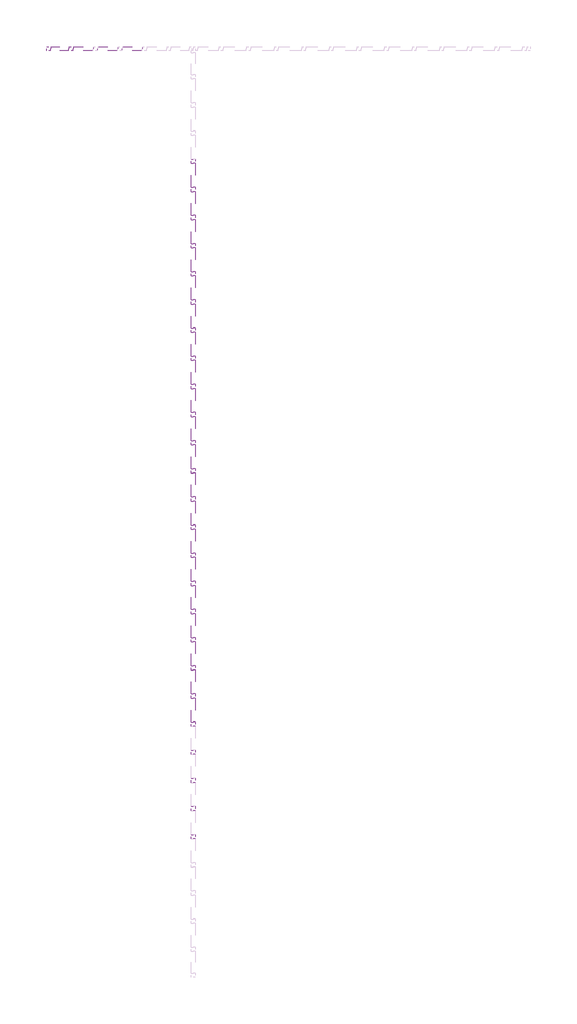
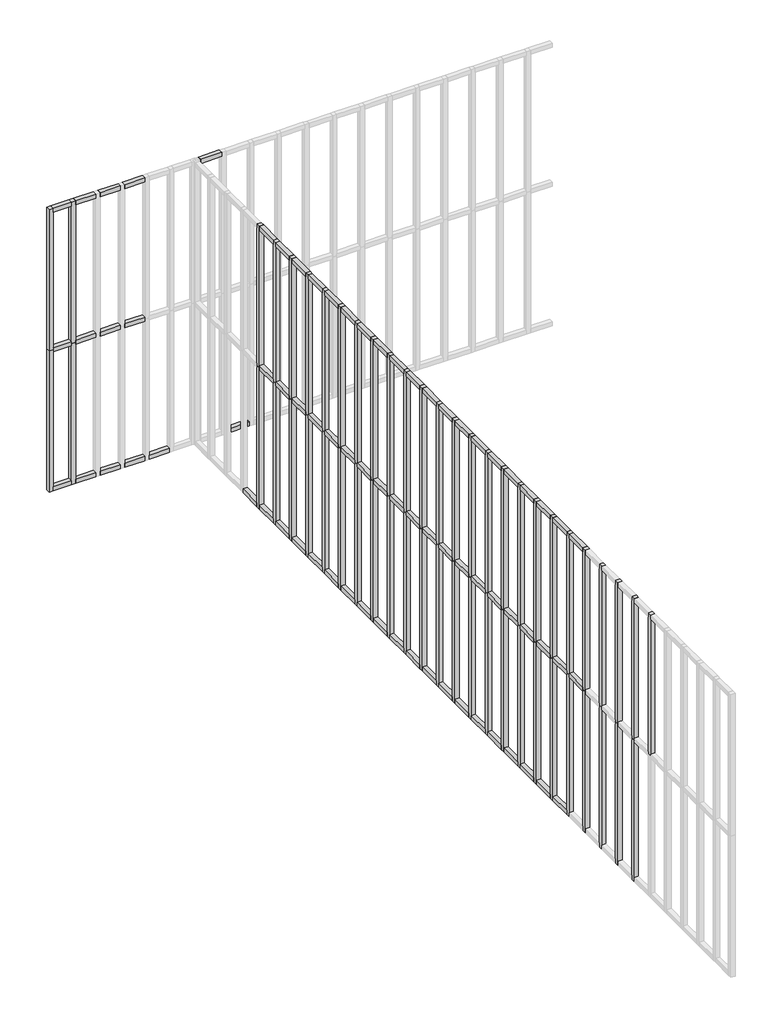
# One storey, part 7 of 9: 128 members.
"""IFC4 building model written with IfcOpenShell, lengths in millimetres."""

from ifc_helpers import new_model, si_unit, origin, place, context, project, spatial, transform, mapped, element, save
from components import montante_retangular_30mm_quadrado_ac79c377, montante_retangular_30mm_quadrado_16fee919, montante_retangular_30mm_quadrado_1e3c183d, montante_retangular_30mm_quadrado_ac46af65, montante_retangular_30mm_quadrado_54fe6a28, montante_retangular_30mm_quadrado_529ace61, montante_retangular_30mm_quadrado_ebddef8f, montante_retangular_30mm_quadrado_435085d7, montante_retangular_30mm_quadrado_4eb7c7a0, montante_retangular_30mm_quadrado_018b02ca

model = new_model("IFC4")

# Units and contexts
model_context = context("Model", 3, world=origin())
ifc_project = project(units=[si_unit("LENGTHUNIT", "METRE", prefix="MILLI")], contexts=[model_context])

# Site, building, storey
site = spatial("IfcSite", under=ifc_project)
building = spatial("IfcBuilding", under=site)
storey = spatial("IfcBuildingStorey", under=building, Name="Garagem 1", Elevation=47850.0)

# Members
placement = place(None, origin())
montante_retangular_30mm_quadrado_shape = montante_retangular_30mm_quadrado_ac79c377(model_context)
element("IfcMember", 1, ObjectType="Montante retangular : 30mm Quadrado", at=placement, inside=storey, context=model_context, shape_type="MappedRepresentation", body=[
    mapped(montante_retangular_30mm_quadrado_shape, transform((-7090.6441353, 10632.3610556, 52100.0), x_axis=(0.0, 0.0, 1.0), y_axis=(0.0, -1.0, 0.0), z_axis=(1.0, 0.0, 0.0))),
])
montante_retangular_30mm_quadrado_2_shape = montante_retangular_30mm_quadrado_16fee919(model_context)
element("IfcMember", 2, ObjectType="Montante retangular : 30mm Quadrado", at=placement, inside=storey, context=model_context, shape_type="MappedRepresentation", body=[
    mapped(montante_retangular_30mm_quadrado_2_shape, transform((-6918.2132212, 10632.3610556, 52100.0), x_axis=(0.0, 0.0, 1.0), y_axis=(0.0, -1.0, 0.0), z_axis=(1.0, 0.0, 0.0))),
])
element("IfcMember", 3, ObjectType="Montante retangular : 30mm Quadrado", at=placement, inside=storey, context=model_context, shape_type="MappedRepresentation", body=[
    mapped(montante_retangular_30mm_quadrado_2_shape, transform((-6745.7823071, 10632.3610556, 52100.0), x_axis=(0.0, 0.0, 1.0), y_axis=(0.0, -1.0, 0.0), z_axis=(1.0, 0.0, 0.0))),
])
element("IfcMember", 4, ObjectType="Montante retangular : 30mm Quadrado", at=placement, inside=storey, context=model_context, shape_type="MappedRepresentation", body=[
    mapped(montante_retangular_30mm_quadrado_2_shape, transform((-6573.351393, 10632.3610556, 52100.0), x_axis=(0.0, 0.0, 1.0), y_axis=(0.0, -1.0, 0.0), z_axis=(1.0, 0.0, 0.0))),
])
element("IfcMember", 5, ObjectType="Montante retangular : 30mm Quadrado", at=placement, inside=storey, context=model_context, shape_type="MappedRepresentation", body=[
    mapped(montante_retangular_30mm_quadrado_shape, transform((-7218.0750497, 10632.3610556, 50000.0), x_axis=(0.0, 0.0, -1.0), y_axis=(0.0, -1.0, 0.0), z_axis=(-1.0, 0.0, 0.0))),
])
element("IfcMember", 6, ObjectType="Montante retangular : 30mm Quadrado", at=placement, inside=storey, context=model_context, shape_type="MappedRepresentation", body=[
    mapped(montante_retangular_30mm_quadrado_2_shape, transform((-7060.6441353, 10632.3610556, 50000.0), x_axis=(0.0, 0.0, -1.0), y_axis=(0.0, -1.0, 0.0), z_axis=(-1.0, 0.0, 0.0))),
])
element("IfcMember", 7, ObjectType="Montante retangular : 30mm Quadrado", at=placement, inside=storey, context=model_context, shape_type="MappedRepresentation", body=[
    mapped(montante_retangular_30mm_quadrado_2_shape, transform((-6888.2132212, 10632.3610556, 50000.0), x_axis=(0.0, 0.0, -1.0), y_axis=(0.0, -1.0, 0.0), z_axis=(-1.0, 0.0, 0.0))),
])
element("IfcMember", 8, ObjectType="Montante retangular : 30mm Quadrado", at=placement, inside=storey, context=model_context, shape_type="MappedRepresentation", body=[
    mapped(montante_retangular_30mm_quadrado_2_shape, transform((-6715.7823071, 10632.3610556, 50000.0), x_axis=(0.0, 0.0, -1.0), y_axis=(0.0, -1.0, 0.0), z_axis=(-1.0, 0.0, 0.0))),
])
element("IfcMember", 9, ObjectType="Montante retangular : 30mm Quadrado", at=placement, inside=storey, context=model_context, shape_type="MappedRepresentation", body=[
    mapped(montante_retangular_30mm_quadrado_2_shape, transform((-6543.351393, 10632.3610556, 50000.0), x_axis=(0.0, 0.0, -1.0), y_axis=(0.0, -1.0, 0.0), z_axis=(-1.0, 0.0, 0.0))),
])
montante_retangular_30mm_quadrado_3_shape = montante_retangular_30mm_quadrado_1e3c183d(model_context)
element("IfcMember", 10, ObjectType="Montante retangular : 30mm Quadrado", at=placement, inside=storey, context=model_context, shape_type="MappedRepresentation", body=[
    mapped(montante_retangular_30mm_quadrado_3_shape, transform((-7090.6441353, 10632.3610556, 51050.0), x_axis=(0.0, 0.0, 1.0), y_axis=(0.0, -1.0, 0.0), z_axis=(1.0, 0.0, 0.0))),
])
montante_retangular_30mm_quadrado_4_shape = montante_retangular_30mm_quadrado_ac46af65(model_context)
element("IfcMember", 11, ObjectType="Montante retangular : 30mm Quadrado", at=placement, inside=storey, context=model_context, shape_type="MappedRepresentation", body=[
    mapped(montante_retangular_30mm_quadrado_4_shape, transform((-6918.2132212, 10632.3610556, 51050.0), x_axis=(0.0, 0.0, 1.0), y_axis=(0.0, -1.0, 0.0), z_axis=(1.0, 0.0, 0.0))),
])
element("IfcMember", 12, ObjectType="Montante retangular : 30mm Quadrado", at=placement, inside=storey, context=model_context, shape_type="MappedRepresentation", body=[
    mapped(montante_retangular_30mm_quadrado_4_shape, transform((-6745.7823071, 10632.3610556, 51050.0), x_axis=(0.0, 0.0, 1.0), y_axis=(0.0, -1.0, 0.0), z_axis=(1.0, 0.0, 0.0))),
])
element("IfcMember", 13, ObjectType="Montante retangular : 30mm Quadrado", at=placement, inside=storey, context=model_context, shape_type="MappedRepresentation", body=[
    mapped(montante_retangular_30mm_quadrado_4_shape, transform((-6573.351393, 10632.3610556, 51050.0), x_axis=(0.0, 0.0, 1.0), y_axis=(0.0, -1.0, 0.0), z_axis=(1.0, 0.0, 0.0))),
])
montante_retangular_30mm_quadrado_5_shape = montante_retangular_30mm_quadrado_54fe6a28(model_context)
element("IfcMember", 14, ObjectType="Montante retangular : 30mm Quadrado", at=placement, inside=storey, context=model_context, shape_type="MappedRepresentation", body=[
    mapped(montante_retangular_30mm_quadrado_5_shape, transform((-7075.6441353, 10632.3610556, 50000.0), x_axis=(1.0, 0.0, 0.0), y_axis=(0.0, -1.0, 0.0), z_axis=(0.0, 0.0, -1.0))),
])
element("IfcMember", 15, ObjectType="Montante retangular : 30mm Quadrado", at=placement, inside=storey, context=model_context, shape_type="MappedRepresentation", body=[
    mapped(montante_retangular_30mm_quadrado_5_shape, transform((-6213.4895645, 5275.8155354, 50000.0), x_axis=(0.0, 1.0, 0.0), y_axis=(1.0, 0.0, 0.0), z_axis=(0.0, 0.0, -1.0))),
])
element("IfcMember", 16, ObjectType="Montante retangular : 30mm Quadrado", at=placement, inside=storey, context=model_context, shape_type="MappedRepresentation", body=[
    mapped(montante_retangular_30mm_quadrado_5_shape, transform((-6213.4895645, 5474.2061102, 50000.0), x_axis=(0.0, 1.0, 0.0), y_axis=(1.0, 0.0, 0.0), z_axis=(0.0, 0.0, -1.0))),
])
element("IfcMember", 17, ObjectType="Montante retangular : 30mm Quadrado", at=placement, inside=storey, context=model_context, shape_type="MappedRepresentation", body=[
    mapped(montante_retangular_30mm_quadrado_5_shape, transform((-6213.4895645, 5672.596685, 50000.0), x_axis=(0.0, 1.0, 0.0), y_axis=(1.0, 0.0, 0.0), z_axis=(0.0, 0.0, -1.0))),
])
element("IfcMember", 18, ObjectType="Montante retangular : 30mm Quadrado", at=placement, inside=storey, context=model_context, shape_type="MappedRepresentation", body=[
    mapped(montante_retangular_30mm_quadrado_5_shape, transform((-6213.4895645, 5870.9872598, 50000.0), x_axis=(0.0, 1.0, 0.0), y_axis=(1.0, 0.0, 0.0), z_axis=(0.0, 0.0, -1.0))),
])
element("IfcMember", 19, ObjectType="Montante retangular : 30mm Quadrado", at=placement, inside=storey, context=model_context, shape_type="MappedRepresentation", body=[
    mapped(montante_retangular_30mm_quadrado_5_shape, transform((-6213.4895645, 6069.3778347, 50000.0), x_axis=(0.0, 1.0, 0.0), y_axis=(1.0, 0.0, 0.0), z_axis=(0.0, 0.0, -1.0))),
])
element("IfcMember", 20, ObjectType="Montante retangular : 30mm Quadrado", at=placement, inside=storey, context=model_context, shape_type="MappedRepresentation", body=[
    mapped(montante_retangular_30mm_quadrado_5_shape, transform((-6213.4895645, 6267.7684095, 50000.0), x_axis=(0.0, 1.0, 0.0), y_axis=(1.0, 0.0, 0.0), z_axis=(0.0, 0.0, -1.0))),
])
element("IfcMember", 21, ObjectType="Montante retangular : 30mm Quadrado", at=placement, inside=storey, context=model_context, shape_type="MappedRepresentation", body=[
    mapped(montante_retangular_30mm_quadrado_5_shape, transform((-6213.4895645, 6466.1589843, 50000.0), x_axis=(0.0, 1.0, 0.0), y_axis=(1.0, 0.0, 0.0), z_axis=(0.0, 0.0, -1.0))),
])
element("IfcMember", 22, ObjectType="Montante retangular : 30mm Quadrado", at=placement, inside=storey, context=model_context, shape_type="MappedRepresentation", body=[
    mapped(montante_retangular_30mm_quadrado_5_shape, transform((-6213.4895645, 6664.5495591, 50000.0), x_axis=(0.0, 1.0, 0.0), y_axis=(1.0, 0.0, 0.0), z_axis=(0.0, 0.0, -1.0))),
])
element("IfcMember", 23, ObjectType="Montante retangular : 30mm Quadrado", at=placement, inside=storey, context=model_context, shape_type="MappedRepresentation", body=[
    mapped(montante_retangular_30mm_quadrado_5_shape, transform((-6213.4895645, 6862.9401339, 50000.0), x_axis=(0.0, 1.0, 0.0), y_axis=(1.0, 0.0, 0.0), z_axis=(0.0, 0.0, -1.0))),
])
element("IfcMember", 24, ObjectType="Montante retangular : 30mm Quadrado", at=placement, inside=storey, context=model_context, shape_type="MappedRepresentation", body=[
    mapped(montante_retangular_30mm_quadrado_5_shape, transform((-6213.4895645, 7061.3307087, 50000.0), x_axis=(0.0, 1.0, 0.0), y_axis=(1.0, 0.0, 0.0), z_axis=(0.0, 0.0, -1.0))),
])
element("IfcMember", 25, ObjectType="Montante retangular : 30mm Quadrado", at=placement, inside=storey, context=model_context, shape_type="MappedRepresentation", body=[
    mapped(montante_retangular_30mm_quadrado_5_shape, transform((-6213.4895645, 7259.7212835, 50000.0), x_axis=(0.0, 1.0, 0.0), y_axis=(1.0, 0.0, 0.0), z_axis=(0.0, 0.0, -1.0))),
])
element("IfcMember", 26, ObjectType="Montante retangular : 30mm Quadrado", at=placement, inside=storey, context=model_context, shape_type="MappedRepresentation", body=[
    mapped(montante_retangular_30mm_quadrado_5_shape, transform((-6213.4895645, 7458.1118583, 50000.0), x_axis=(0.0, 1.0, 0.0), y_axis=(1.0, 0.0, 0.0), z_axis=(0.0, 0.0, -1.0))),
])
element("IfcMember", 27, ObjectType="Montante retangular : 30mm Quadrado", at=placement, inside=storey, context=model_context, shape_type="MappedRepresentation", body=[
    mapped(montante_retangular_30mm_quadrado_5_shape, transform((-6213.4895645, 7656.5024331, 50000.0), x_axis=(0.0, 1.0, 0.0), y_axis=(1.0, 0.0, 0.0), z_axis=(0.0, 0.0, -1.0))),
])
element("IfcMember", 28, ObjectType="Montante retangular : 30mm Quadrado", at=placement, inside=storey, context=model_context, shape_type="MappedRepresentation", body=[
    mapped(montante_retangular_30mm_quadrado_5_shape, transform((-6213.4895645, 7854.893008, 50000.0), x_axis=(0.0, 1.0, 0.0), y_axis=(1.0, 0.0, 0.0), z_axis=(0.0, 0.0, -1.0))),
])
element("IfcMember", 29, ObjectType="Montante retangular : 30mm Quadrado", at=placement, inside=storey, context=model_context, shape_type="MappedRepresentation", body=[
    mapped(montante_retangular_30mm_quadrado_5_shape, transform((-6213.4895645, 8053.2835828, 50000.0), x_axis=(0.0, 1.0, 0.0), y_axis=(1.0, 0.0, 0.0), z_axis=(0.0, 0.0, -1.0))),
])
element("IfcMember", 30, ObjectType="Montante retangular : 30mm Quadrado", at=placement, inside=storey, context=model_context, shape_type="MappedRepresentation", body=[
    mapped(montante_retangular_30mm_quadrado_5_shape, transform((-6213.4895645, 8251.6741576, 50000.0), x_axis=(0.0, 1.0, 0.0), y_axis=(1.0, 0.0, 0.0), z_axis=(0.0, 0.0, -1.0))),
])
element("IfcMember", 31, ObjectType="Montante retangular : 30mm Quadrado", at=placement, inside=storey, context=model_context, shape_type="MappedRepresentation", body=[
    mapped(montante_retangular_30mm_quadrado_5_shape, transform((-6213.4895645, 8450.0647324, 50000.0), x_axis=(0.0, 1.0, 0.0), y_axis=(1.0, 0.0, 0.0), z_axis=(0.0, 0.0, -1.0))),
])
element("IfcMember", 32, ObjectType="Montante retangular : 30mm Quadrado", at=placement, inside=storey, context=model_context, shape_type="MappedRepresentation", body=[
    mapped(montante_retangular_30mm_quadrado_5_shape, transform((-6213.4895645, 8648.4553072, 50000.0), x_axis=(0.0, 1.0, 0.0), y_axis=(1.0, 0.0, 0.0), z_axis=(0.0, 0.0, -1.0))),
])
element("IfcMember", 33, ObjectType="Montante retangular : 30mm Quadrado", at=placement, inside=storey, context=model_context, shape_type="MappedRepresentation", body=[
    mapped(montante_retangular_30mm_quadrado_5_shape, transform((-6213.4895645, 8846.845882, 50000.0), x_axis=(0.0, 1.0, 0.0), y_axis=(1.0, 0.0, 0.0), z_axis=(0.0, 0.0, -1.0))),
])
element("IfcMember", 34, ObjectType="Montante retangular : 30mm Quadrado", at=placement, inside=storey, context=model_context, shape_type="MappedRepresentation", body=[
    mapped(montante_retangular_30mm_quadrado_5_shape, transform((-6213.4895645, 9045.2364568, 50000.0), x_axis=(0.0, 1.0, 0.0), y_axis=(1.0, 0.0, 0.0), z_axis=(0.0, 0.0, -1.0))),
])
element("IfcMember", 35, ObjectType="Montante retangular : 30mm Quadrado", at=placement, inside=storey, context=model_context, shape_type="MappedRepresentation", body=[
    mapped(montante_retangular_30mm_quadrado_5_shape, transform((-6213.4895645, 9243.6270316, 50000.0), x_axis=(0.0, 1.0, 0.0), y_axis=(1.0, 0.0, 0.0), z_axis=(0.0, 0.0, -1.0))),
])
element("IfcMember", 36, ObjectType="Montante retangular : 30mm Quadrado", at=placement, inside=storey, context=model_context, shape_type="MappedRepresentation", body=[
    mapped(montante_retangular_30mm_quadrado_5_shape, transform((-6213.4895645, 9442.0176064, 50000.0), x_axis=(0.0, 1.0, 0.0), y_axis=(1.0, 0.0, 0.0), z_axis=(0.0, 0.0, -1.0))),
])
element("IfcMember", 37, ObjectType="Montante retangular : 30mm Quadrado", at=placement, inside=storey, context=model_context, shape_type="MappedRepresentation", body=[
    mapped(montante_retangular_30mm_quadrado_5_shape, transform((-6213.4895645, 9640.4081813, 50000.0), x_axis=(0.0, 1.0, 0.0), y_axis=(1.0, 0.0, 0.0), z_axis=(0.0, 0.0, -1.0))),
])
element("IfcMember", 38, ObjectType="Montante retangular : 30mm Quadrado", at=placement, inside=storey, context=model_context, shape_type="MappedRepresentation", body=[
    mapped(montante_retangular_30mm_quadrado_5_shape, transform((-6213.4895645, 9838.7987561, 50000.0), x_axis=(0.0, 1.0, 0.0), y_axis=(1.0, 0.0, 0.0), z_axis=(0.0, 0.0, -1.0))),
])
element("IfcMember", 39, ObjectType="Montante retangular : 30mm Quadrado", at=placement, inside=storey, context=model_context, shape_type="MappedRepresentation", body=[
    mapped(montante_retangular_30mm_quadrado_5_shape, transform((-7075.6441353, 10632.3610556, 51050.0), x_axis=(1.0, 0.0, 0.0), y_axis=(0.0, -1.0, 0.0), z_axis=(0.0, 0.0, -1.0))),
])
element("IfcMember", 40, ObjectType="Montante retangular : 30mm Quadrado", at=placement, inside=storey, context=model_context, shape_type="MappedRepresentation", body=[
    mapped(montante_retangular_30mm_quadrado_5_shape, transform((-6213.4895645, 5077.4249606, 51050.0), x_axis=(0.0, 1.0, 0.0), y_axis=(1.0, 0.0, 0.0), z_axis=(0.0, 0.0, -1.0))),
])
element("IfcMember", 41, ObjectType="Montante retangular : 30mm Quadrado", at=placement, inside=storey, context=model_context, shape_type="MappedRepresentation", body=[
    mapped(montante_retangular_30mm_quadrado_5_shape, transform((-6213.4895645, 5275.8155354, 51050.0), x_axis=(0.0, 1.0, 0.0), y_axis=(1.0, 0.0, 0.0), z_axis=(0.0, 0.0, -1.0))),
])
element("IfcMember", 42, ObjectType="Montante retangular : 30mm Quadrado", at=placement, inside=storey, context=model_context, shape_type="MappedRepresentation", body=[
    mapped(montante_retangular_30mm_quadrado_5_shape, transform((-6213.4895645, 5474.2061102, 51050.0), x_axis=(0.0, 1.0, 0.0), y_axis=(1.0, 0.0, 0.0), z_axis=(0.0, 0.0, -1.0))),
])
element("IfcMember", 43, ObjectType="Montante retangular : 30mm Quadrado", at=placement, inside=storey, context=model_context, shape_type="MappedRepresentation", body=[
    mapped(montante_retangular_30mm_quadrado_5_shape, transform((-6213.4895645, 5672.596685, 51050.0), x_axis=(0.0, 1.0, 0.0), y_axis=(1.0, 0.0, 0.0), z_axis=(0.0, 0.0, -1.0))),
])
element("IfcMember", 44, ObjectType="Montante retangular : 30mm Quadrado", at=placement, inside=storey, context=model_context, shape_type="MappedRepresentation", body=[
    mapped(montante_retangular_30mm_quadrado_5_shape, transform((-6213.4895645, 5870.9872598, 51050.0), x_axis=(0.0, 1.0, 0.0), y_axis=(1.0, 0.0, 0.0), z_axis=(0.0, 0.0, -1.0))),
])
element("IfcMember", 45, ObjectType="Montante retangular : 30mm Quadrado", at=placement, inside=storey, context=model_context, shape_type="MappedRepresentation", body=[
    mapped(montante_retangular_30mm_quadrado_5_shape, transform((-6213.4895645, 6069.3778347, 51050.0), x_axis=(0.0, 1.0, 0.0), y_axis=(1.0, 0.0, 0.0), z_axis=(0.0, 0.0, -1.0))),
])
element("IfcMember", 46, ObjectType="Montante retangular : 30mm Quadrado", at=placement, inside=storey, context=model_context, shape_type="MappedRepresentation", body=[
    mapped(montante_retangular_30mm_quadrado_5_shape, transform((-6213.4895645, 6267.7684095, 51050.0), x_axis=(0.0, 1.0, 0.0), y_axis=(1.0, 0.0, 0.0), z_axis=(0.0, 0.0, -1.0))),
])
element("IfcMember", 47, ObjectType="Montante retangular : 30mm Quadrado", at=placement, inside=storey, context=model_context, shape_type="MappedRepresentation", body=[
    mapped(montante_retangular_30mm_quadrado_5_shape, transform((-6213.4895645, 6466.1589843, 51050.0), x_axis=(0.0, 1.0, 0.0), y_axis=(1.0, 0.0, 0.0), z_axis=(0.0, 0.0, -1.0))),
])
element("IfcMember", 48, ObjectType="Montante retangular : 30mm Quadrado", at=placement, inside=storey, context=model_context, shape_type="MappedRepresentation", body=[
    mapped(montante_retangular_30mm_quadrado_5_shape, transform((-6213.4895645, 6664.5495591, 51050.0), x_axis=(0.0, 1.0, 0.0), y_axis=(1.0, 0.0, 0.0), z_axis=(0.0, 0.0, -1.0))),
])
element("IfcMember", 49, ObjectType="Montante retangular : 30mm Quadrado", at=placement, inside=storey, context=model_context, shape_type="MappedRepresentation", body=[
    mapped(montante_retangular_30mm_quadrado_5_shape, transform((-6213.4895645, 6862.9401339, 51050.0), x_axis=(0.0, 1.0, 0.0), y_axis=(1.0, 0.0, 0.0), z_axis=(0.0, 0.0, -1.0))),
])
element("IfcMember", 50, ObjectType="Montante retangular : 30mm Quadrado", at=placement, inside=storey, context=model_context, shape_type="MappedRepresentation", body=[
    mapped(montante_retangular_30mm_quadrado_5_shape, transform((-6213.4895645, 7061.3307087, 51050.0), x_axis=(0.0, 1.0, 0.0), y_axis=(1.0, 0.0, 0.0), z_axis=(0.0, 0.0, -1.0))),
])
element("IfcMember", 51, ObjectType="Montante retangular : 30mm Quadrado", at=placement, inside=storey, context=model_context, shape_type="MappedRepresentation", body=[
    mapped(montante_retangular_30mm_quadrado_5_shape, transform((-6213.4895645, 7259.7212835, 51050.0), x_axis=(0.0, 1.0, 0.0), y_axis=(1.0, 0.0, 0.0), z_axis=(0.0, 0.0, -1.0))),
])
element("IfcMember", 52, ObjectType="Montante retangular : 30mm Quadrado", at=placement, inside=storey, context=model_context, shape_type="MappedRepresentation", body=[
    mapped(montante_retangular_30mm_quadrado_5_shape, transform((-6213.4895645, 7458.1118583, 51050.0), x_axis=(0.0, 1.0, 0.0), y_axis=(1.0, 0.0, 0.0), z_axis=(0.0, 0.0, -1.0))),
])
element("IfcMember", 53, ObjectType="Montante retangular : 30mm Quadrado", at=placement, inside=storey, context=model_context, shape_type="MappedRepresentation", body=[
    mapped(montante_retangular_30mm_quadrado_5_shape, transform((-6213.4895645, 7656.5024331, 51050.0), x_axis=(0.0, 1.0, 0.0), y_axis=(1.0, 0.0, 0.0), z_axis=(0.0, 0.0, -1.0))),
])
element("IfcMember", 54, ObjectType="Montante retangular : 30mm Quadrado", at=placement, inside=storey, context=model_context, shape_type="MappedRepresentation", body=[
    mapped(montante_retangular_30mm_quadrado_5_shape, transform((-6213.4895645, 7854.893008, 51050.0), x_axis=(0.0, 1.0, 0.0), y_axis=(1.0, 0.0, 0.0), z_axis=(0.0, 0.0, -1.0))),
])
element("IfcMember", 55, ObjectType="Montante retangular : 30mm Quadrado", at=placement, inside=storey, context=model_context, shape_type="MappedRepresentation", body=[
    mapped(montante_retangular_30mm_quadrado_5_shape, transform((-6213.4895645, 8053.2835828, 51050.0), x_axis=(0.0, 1.0, 0.0), y_axis=(1.0, 0.0, 0.0), z_axis=(0.0, 0.0, -1.0))),
])
element("IfcMember", 56, ObjectType="Montante retangular : 30mm Quadrado", at=placement, inside=storey, context=model_context, shape_type="MappedRepresentation", body=[
    mapped(montante_retangular_30mm_quadrado_5_shape, transform((-6213.4895645, 8251.6741576, 51050.0), x_axis=(0.0, 1.0, 0.0), y_axis=(1.0, 0.0, 0.0), z_axis=(0.0, 0.0, -1.0))),
])
element("IfcMember", 57, ObjectType="Montante retangular : 30mm Quadrado", at=placement, inside=storey, context=model_context, shape_type="MappedRepresentation", body=[
    mapped(montante_retangular_30mm_quadrado_5_shape, transform((-6213.4895645, 8450.0647324, 51050.0), x_axis=(0.0, 1.0, 0.0), y_axis=(1.0, 0.0, 0.0), z_axis=(0.0, 0.0, -1.0))),
])
element("IfcMember", 58, ObjectType="Montante retangular : 30mm Quadrado", at=placement, inside=storey, context=model_context, shape_type="MappedRepresentation", body=[
    mapped(montante_retangular_30mm_quadrado_5_shape, transform((-6213.4895645, 8648.4553072, 51050.0), x_axis=(0.0, 1.0, 0.0), y_axis=(1.0, 0.0, 0.0), z_axis=(0.0, 0.0, -1.0))),
])
element("IfcMember", 59, ObjectType="Montante retangular : 30mm Quadrado", at=placement, inside=storey, context=model_context, shape_type="MappedRepresentation", body=[
    mapped(montante_retangular_30mm_quadrado_5_shape, transform((-6213.4895645, 8846.845882, 51050.0), x_axis=(0.0, 1.0, 0.0), y_axis=(1.0, 0.0, 0.0), z_axis=(0.0, 0.0, -1.0))),
])
element("IfcMember", 60, ObjectType="Montante retangular : 30mm Quadrado", at=placement, inside=storey, context=model_context, shape_type="MappedRepresentation", body=[
    mapped(montante_retangular_30mm_quadrado_5_shape, transform((-6213.4895645, 9045.2364568, 51050.0), x_axis=(0.0, 1.0, 0.0), y_axis=(1.0, 0.0, 0.0), z_axis=(0.0, 0.0, -1.0))),
])
element("IfcMember", 61, ObjectType="Montante retangular : 30mm Quadrado", at=placement, inside=storey, context=model_context, shape_type="MappedRepresentation", body=[
    mapped(montante_retangular_30mm_quadrado_5_shape, transform((-6213.4895645, 9243.6270316, 51050.0), x_axis=(0.0, 1.0, 0.0), y_axis=(1.0, 0.0, 0.0), z_axis=(0.0, 0.0, -1.0))),
])
element("IfcMember", 62, ObjectType="Montante retangular : 30mm Quadrado", at=placement, inside=storey, context=model_context, shape_type="MappedRepresentation", body=[
    mapped(montante_retangular_30mm_quadrado_5_shape, transform((-6213.4895645, 9442.0176064, 51050.0), x_axis=(0.0, 1.0, 0.0), y_axis=(1.0, 0.0, 0.0), z_axis=(0.0, 0.0, -1.0))),
])
element("IfcMember", 63, ObjectType="Montante retangular : 30mm Quadrado", at=placement, inside=storey, context=model_context, shape_type="MappedRepresentation", body=[
    mapped(montante_retangular_30mm_quadrado_5_shape, transform((-6213.4895645, 9640.4081813, 51050.0), x_axis=(0.0, 1.0, 0.0), y_axis=(1.0, 0.0, 0.0), z_axis=(0.0, 0.0, -1.0))),
])
element("IfcMember", 64, ObjectType="Montante retangular : 30mm Quadrado", at=placement, inside=storey, context=model_context, shape_type="MappedRepresentation", body=[
    mapped(montante_retangular_30mm_quadrado_5_shape, transform((-6213.4895645, 9838.7987561, 51050.0), x_axis=(0.0, 1.0, 0.0), y_axis=(1.0, 0.0, 0.0), z_axis=(0.0, 0.0, -1.0))),
])
montante_retangular_30mm_quadrado_6_shape = montante_retangular_30mm_quadrado_529ace61(model_context)
element("IfcMember", 65, ObjectType="Montante retangular : 30mm Quadrado", at=placement, inside=storey, context=model_context, shape_type="MappedRepresentation", body=[
    mapped(montante_retangular_30mm_quadrado_6_shape, transform((-6213.4895645, 6054.3778347, 52100.0), x_axis=(0.0, 0.0, 1.0), y_axis=(1.0, 0.0, 0.0), z_axis=(0.0, 1.0, 0.0))),
])
element("IfcMember", 66, ObjectType="Montante retangular : 30mm Quadrado", at=placement, inside=storey, context=model_context, shape_type="MappedRepresentation", body=[
    mapped(montante_retangular_30mm_quadrado_6_shape, transform((-6213.4895645, 6252.7684095, 52100.0), x_axis=(0.0, 0.0, 1.0), y_axis=(1.0, 0.0, 0.0), z_axis=(0.0, 1.0, 0.0))),
])
element("IfcMember", 67, ObjectType="Montante retangular : 30mm Quadrado", at=placement, inside=storey, context=model_context, shape_type="MappedRepresentation", body=[
    mapped(montante_retangular_30mm_quadrado_6_shape, transform((-6213.4895645, 6451.1589843, 52100.0), x_axis=(0.0, 0.0, 1.0), y_axis=(1.0, 0.0, 0.0), z_axis=(0.0, 1.0, 0.0))),
])
element("IfcMember", 68, ObjectType="Montante retangular : 30mm Quadrado", at=placement, inside=storey, context=model_context, shape_type="MappedRepresentation", body=[
    mapped(montante_retangular_30mm_quadrado_6_shape, transform((-6213.4895645, 6649.5495591, 52100.0), x_axis=(0.0, 0.0, 1.0), y_axis=(1.0, 0.0, 0.0), z_axis=(0.0, 1.0, 0.0))),
])
element("IfcMember", 69, ObjectType="Montante retangular : 30mm Quadrado", at=placement, inside=storey, context=model_context, shape_type="MappedRepresentation", body=[
    mapped(montante_retangular_30mm_quadrado_6_shape, transform((-6213.4895645, 6847.9401339, 52100.0), x_axis=(0.0, 0.0, 1.0), y_axis=(1.0, 0.0, 0.0), z_axis=(0.0, 1.0, 0.0))),
])
element("IfcMember", 70, ObjectType="Montante retangular : 30mm Quadrado", at=placement, inside=storey, context=model_context, shape_type="MappedRepresentation", body=[
    mapped(montante_retangular_30mm_quadrado_6_shape, transform((-6213.4895645, 7046.3307087, 52100.0), x_axis=(0.0, 0.0, 1.0), y_axis=(1.0, 0.0, 0.0), z_axis=(0.0, 1.0, 0.0))),
])
element("IfcMember", 71, ObjectType="Montante retangular : 30mm Quadrado", at=placement, inside=storey, context=model_context, shape_type="MappedRepresentation", body=[
    mapped(montante_retangular_30mm_quadrado_6_shape, transform((-6213.4895645, 7244.7212835, 52100.0), x_axis=(0.0, 0.0, 1.0), y_axis=(1.0, 0.0, 0.0), z_axis=(0.0, 1.0, 0.0))),
])
element("IfcMember", 72, ObjectType="Montante retangular : 30mm Quadrado", at=placement, inside=storey, context=model_context, shape_type="MappedRepresentation", body=[
    mapped(montante_retangular_30mm_quadrado_6_shape, transform((-6213.4895645, 7443.1118583, 52100.0), x_axis=(0.0, 0.0, 1.0), y_axis=(1.0, 0.0, 0.0), z_axis=(0.0, 1.0, 0.0))),
])
element("IfcMember", 73, ObjectType="Montante retangular : 30mm Quadrado", at=placement, inside=storey, context=model_context, shape_type="MappedRepresentation", body=[
    mapped(montante_retangular_30mm_quadrado_6_shape, transform((-6213.4895645, 7641.5024331, 52100.0), x_axis=(0.0, 0.0, 1.0), y_axis=(1.0, 0.0, 0.0), z_axis=(0.0, 1.0, 0.0))),
])
element("IfcMember", 74, ObjectType="Montante retangular : 30mm Quadrado", at=placement, inside=storey, context=model_context, shape_type="MappedRepresentation", body=[
    mapped(montante_retangular_30mm_quadrado_6_shape, transform((-6213.4895645, 7839.893008, 52100.0), x_axis=(0.0, 0.0, 1.0), y_axis=(1.0, 0.0, 0.0), z_axis=(0.0, 1.0, 0.0))),
])
element("IfcMember", 75, ObjectType="Montante retangular : 30mm Quadrado", at=placement, inside=storey, context=model_context, shape_type="MappedRepresentation", body=[
    mapped(montante_retangular_30mm_quadrado_6_shape, transform((-6213.4895645, 8038.2835828, 52100.0), x_axis=(0.0, 0.0, 1.0), y_axis=(1.0, 0.0, 0.0), z_axis=(0.0, 1.0, 0.0))),
])
element("IfcMember", 76, ObjectType="Montante retangular : 30mm Quadrado", at=placement, inside=storey, context=model_context, shape_type="MappedRepresentation", body=[
    mapped(montante_retangular_30mm_quadrado_6_shape, transform((-6213.4895645, 8236.6741576, 52100.0), x_axis=(0.0, 0.0, 1.0), y_axis=(1.0, 0.0, 0.0), z_axis=(0.0, 1.0, 0.0))),
])
element("IfcMember", 77, ObjectType="Montante retangular : 30mm Quadrado", at=placement, inside=storey, context=model_context, shape_type="MappedRepresentation", body=[
    mapped(montante_retangular_30mm_quadrado_6_shape, transform((-6213.4895645, 8435.0647324, 52100.0), x_axis=(0.0, 0.0, 1.0), y_axis=(1.0, 0.0, 0.0), z_axis=(0.0, 1.0, 0.0))),
])
element("IfcMember", 78, ObjectType="Montante retangular : 30mm Quadrado", at=placement, inside=storey, context=model_context, shape_type="MappedRepresentation", body=[
    mapped(montante_retangular_30mm_quadrado_6_shape, transform((-6213.4895645, 8633.4553072, 52100.0), x_axis=(0.0, 0.0, 1.0), y_axis=(1.0, 0.0, 0.0), z_axis=(0.0, 1.0, 0.0))),
])
element("IfcMember", 79, ObjectType="Montante retangular : 30mm Quadrado", at=placement, inside=storey, context=model_context, shape_type="MappedRepresentation", body=[
    mapped(montante_retangular_30mm_quadrado_6_shape, transform((-6213.4895645, 8831.845882, 52100.0), x_axis=(0.0, 0.0, 1.0), y_axis=(1.0, 0.0, 0.0), z_axis=(0.0, 1.0, 0.0))),
])
element("IfcMember", 80, ObjectType="Montante retangular : 30mm Quadrado", at=placement, inside=storey, context=model_context, shape_type="MappedRepresentation", body=[
    mapped(montante_retangular_30mm_quadrado_6_shape, transform((-6213.4895645, 9030.2364568, 52100.0), x_axis=(0.0, 0.0, 1.0), y_axis=(1.0, 0.0, 0.0), z_axis=(0.0, 1.0, 0.0))),
])
element("IfcMember", 81, ObjectType="Montante retangular : 30mm Quadrado", at=placement, inside=storey, context=model_context, shape_type="MappedRepresentation", body=[
    mapped(montante_retangular_30mm_quadrado_6_shape, transform((-6213.4895645, 9228.6270316, 52100.0), x_axis=(0.0, 0.0, 1.0), y_axis=(1.0, 0.0, 0.0), z_axis=(0.0, 1.0, 0.0))),
])
element("IfcMember", 82, ObjectType="Montante retangular : 30mm Quadrado", at=placement, inside=storey, context=model_context, shape_type="MappedRepresentation", body=[
    mapped(montante_retangular_30mm_quadrado_6_shape, transform((-6213.4895645, 9427.0176064, 52100.0), x_axis=(0.0, 0.0, 1.0), y_axis=(1.0, 0.0, 0.0), z_axis=(0.0, 1.0, 0.0))),
])
element("IfcMember", 83, ObjectType="Montante retangular : 30mm Quadrado", at=placement, inside=storey, context=model_context, shape_type="MappedRepresentation", body=[
    mapped(montante_retangular_30mm_quadrado_6_shape, transform((-6213.4895645, 9625.4081813, 52100.0), x_axis=(0.0, 0.0, 1.0), y_axis=(1.0, 0.0, 0.0), z_axis=(0.0, 1.0, 0.0))),
])
element("IfcMember", 84, ObjectType="Montante retangular : 30mm Quadrado", at=placement, inside=storey, context=model_context, shape_type="MappedRepresentation", body=[
    mapped(montante_retangular_30mm_quadrado_6_shape, transform((-6213.4895645, 9823.7987561, 52100.0), x_axis=(0.0, 0.0, 1.0), y_axis=(1.0, 0.0, 0.0), z_axis=(0.0, 1.0, 0.0))),
])
element("IfcMember", 85, ObjectType="Montante retangular : 30mm Quadrado", at=placement, inside=storey, context=model_context, shape_type="MappedRepresentation", body=[
    mapped(montante_retangular_30mm_quadrado_6_shape, transform((-6213.4895645, 6084.3778347, 50000.0), x_axis=(0.0, 0.0, -1.0), y_axis=(1.0, 0.0, 0.0), z_axis=(0.0, -1.0, 0.0))),
])
element("IfcMember", 86, ObjectType="Montante retangular : 30mm Quadrado", at=placement, inside=storey, context=model_context, shape_type="MappedRepresentation", body=[
    mapped(montante_retangular_30mm_quadrado_6_shape, transform((-6213.4895645, 6282.7684095, 50000.0), x_axis=(0.0, 0.0, -1.0), y_axis=(1.0, 0.0, 0.0), z_axis=(0.0, -1.0, 0.0))),
])
element("IfcMember", 87, ObjectType="Montante retangular : 30mm Quadrado", at=placement, inside=storey, context=model_context, shape_type="MappedRepresentation", body=[
    mapped(montante_retangular_30mm_quadrado_6_shape, transform((-6213.4895645, 6481.1589843, 50000.0), x_axis=(0.0, 0.0, -1.0), y_axis=(1.0, 0.0, 0.0), z_axis=(0.0, -1.0, 0.0))),
])
element("IfcMember", 88, ObjectType="Montante retangular : 30mm Quadrado", at=placement, inside=storey, context=model_context, shape_type="MappedRepresentation", body=[
    mapped(montante_retangular_30mm_quadrado_6_shape, transform((-6213.4895645, 6679.5495591, 50000.0), x_axis=(0.0, 0.0, -1.0), y_axis=(1.0, 0.0, 0.0), z_axis=(0.0, -1.0, 0.0))),
])
element("IfcMember", 89, ObjectType="Montante retangular : 30mm Quadrado", at=placement, inside=storey, context=model_context, shape_type="MappedRepresentation", body=[
    mapped(montante_retangular_30mm_quadrado_6_shape, transform((-6213.4895645, 6877.9401339, 50000.0), x_axis=(0.0, 0.0, -1.0), y_axis=(1.0, 0.0, 0.0), z_axis=(0.0, -1.0, 0.0))),
])
element("IfcMember", 90, ObjectType="Montante retangular : 30mm Quadrado", at=placement, inside=storey, context=model_context, shape_type="MappedRepresentation", body=[
    mapped(montante_retangular_30mm_quadrado_6_shape, transform((-6213.4895645, 7076.3307087, 50000.0), x_axis=(0.0, 0.0, -1.0), y_axis=(1.0, 0.0, 0.0), z_axis=(0.0, -1.0, 0.0))),
])
element("IfcMember", 91, ObjectType="Montante retangular : 30mm Quadrado", at=placement, inside=storey, context=model_context, shape_type="MappedRepresentation", body=[
    mapped(montante_retangular_30mm_quadrado_6_shape, transform((-6213.4895645, 7274.7212835, 50000.0), x_axis=(0.0, 0.0, -1.0), y_axis=(1.0, 0.0, 0.0), z_axis=(0.0, -1.0, 0.0))),
])
element("IfcMember", 92, ObjectType="Montante retangular : 30mm Quadrado", at=placement, inside=storey, context=model_context, shape_type="MappedRepresentation", body=[
    mapped(montante_retangular_30mm_quadrado_6_shape, transform((-6213.4895645, 7473.1118583, 50000.0), x_axis=(0.0, 0.0, -1.0), y_axis=(1.0, 0.0, 0.0), z_axis=(0.0, -1.0, 0.0))),
])
element("IfcMember", 93, ObjectType="Montante retangular : 30mm Quadrado", at=placement, inside=storey, context=model_context, shape_type="MappedRepresentation", body=[
    mapped(montante_retangular_30mm_quadrado_6_shape, transform((-6213.4895645, 7671.5024331, 50000.0), x_axis=(0.0, 0.0, -1.0), y_axis=(1.0, 0.0, 0.0), z_axis=(0.0, -1.0, 0.0))),
])
element("IfcMember", 94, ObjectType="Montante retangular : 30mm Quadrado", at=placement, inside=storey, context=model_context, shape_type="MappedRepresentation", body=[
    mapped(montante_retangular_30mm_quadrado_6_shape, transform((-6213.4895645, 7869.893008, 50000.0), x_axis=(0.0, 0.0, -1.0), y_axis=(1.0, 0.0, 0.0), z_axis=(0.0, -1.0, 0.0))),
])
element("IfcMember", 95, ObjectType="Montante retangular : 30mm Quadrado", at=placement, inside=storey, context=model_context, shape_type="MappedRepresentation", body=[
    mapped(montante_retangular_30mm_quadrado_6_shape, transform((-6213.4895645, 8068.2835828, 50000.0), x_axis=(0.0, 0.0, -1.0), y_axis=(1.0, 0.0, 0.0), z_axis=(0.0, -1.0, 0.0))),
])
element("IfcMember", 96, ObjectType="Montante retangular : 30mm Quadrado", at=placement, inside=storey, context=model_context, shape_type="MappedRepresentation", body=[
    mapped(montante_retangular_30mm_quadrado_6_shape, transform((-6213.4895645, 8266.6741576, 50000.0), x_axis=(0.0, 0.0, -1.0), y_axis=(1.0, 0.0, 0.0), z_axis=(0.0, -1.0, 0.0))),
])
element("IfcMember", 97, ObjectType="Montante retangular : 30mm Quadrado", at=placement, inside=storey, context=model_context, shape_type="MappedRepresentation", body=[
    mapped(montante_retangular_30mm_quadrado_6_shape, transform((-6213.4895645, 8465.0647324, 50000.0), x_axis=(0.0, 0.0, -1.0), y_axis=(1.0, 0.0, 0.0), z_axis=(0.0, -1.0, 0.0))),
])
element("IfcMember", 98, ObjectType="Montante retangular : 30mm Quadrado", at=placement, inside=storey, context=model_context, shape_type="MappedRepresentation", body=[
    mapped(montante_retangular_30mm_quadrado_6_shape, transform((-6213.4895645, 8663.4553072, 50000.0), x_axis=(0.0, 0.0, -1.0), y_axis=(1.0, 0.0, 0.0), z_axis=(0.0, -1.0, 0.0))),
])
element("IfcMember", 99, ObjectType="Montante retangular : 30mm Quadrado", at=placement, inside=storey, context=model_context, shape_type="MappedRepresentation", body=[
    mapped(montante_retangular_30mm_quadrado_6_shape, transform((-6213.4895645, 8861.845882, 50000.0), x_axis=(0.0, 0.0, -1.0), y_axis=(1.0, 0.0, 0.0), z_axis=(0.0, -1.0, 0.0))),
])
element("IfcMember", 100, ObjectType="Montante retangular : 30mm Quadrado", at=placement, inside=storey, context=model_context, shape_type="MappedRepresentation", body=[
    mapped(montante_retangular_30mm_quadrado_6_shape, transform((-6213.4895645, 9060.2364568, 50000.0), x_axis=(0.0, 0.0, -1.0), y_axis=(1.0, 0.0, 0.0), z_axis=(0.0, -1.0, 0.0))),
])
element("IfcMember", 101, ObjectType="Montante retangular : 30mm Quadrado", at=placement, inside=storey, context=model_context, shape_type="MappedRepresentation", body=[
    mapped(montante_retangular_30mm_quadrado_6_shape, transform((-6213.4895645, 9258.6270316, 50000.0), x_axis=(0.0, 0.0, -1.0), y_axis=(1.0, 0.0, 0.0), z_axis=(0.0, -1.0, 0.0))),
])
element("IfcMember", 102, ObjectType="Montante retangular : 30mm Quadrado", at=placement, inside=storey, context=model_context, shape_type="MappedRepresentation", body=[
    mapped(montante_retangular_30mm_quadrado_6_shape, transform((-6213.4895645, 9457.0176064, 50000.0), x_axis=(0.0, 0.0, -1.0), y_axis=(1.0, 0.0, 0.0), z_axis=(0.0, -1.0, 0.0))),
])
element("IfcMember", 103, ObjectType="Montante retangular : 30mm Quadrado", at=placement, inside=storey, context=model_context, shape_type="MappedRepresentation", body=[
    mapped(montante_retangular_30mm_quadrado_6_shape, transform((-6213.4895645, 9655.4081813, 50000.0), x_axis=(0.0, 0.0, -1.0), y_axis=(1.0, 0.0, 0.0), z_axis=(0.0, -1.0, 0.0))),
])
element("IfcMember", 104, ObjectType="Montante retangular : 30mm Quadrado", at=placement, inside=storey, context=model_context, shape_type="MappedRepresentation", body=[
    mapped(montante_retangular_30mm_quadrado_6_shape, transform((-6213.4895645, 9853.7987561, 50000.0), x_axis=(0.0, 0.0, -1.0), y_axis=(1.0, 0.0, 0.0), z_axis=(0.0, -1.0, 0.0))),
])
montante_retangular_30mm_quadrado_7_shape = montante_retangular_30mm_quadrado_ebddef8f(model_context)
element("IfcMember", 105, ObjectType="Montante retangular : 30mm Quadrado", at=placement, inside=storey, context=model_context, shape_type="MappedRepresentation", body=[
    mapped(montante_retangular_30mm_quadrado_7_shape, transform((-6213.4895645, 6054.3778347, 51050.0), x_axis=(0.0, 0.0, 1.0), y_axis=(1.0, 0.0, 0.0), z_axis=(0.0, 1.0, 0.0))),
])
element("IfcMember", 106, ObjectType="Montante retangular : 30mm Quadrado", at=placement, inside=storey, context=model_context, shape_type="MappedRepresentation", body=[
    mapped(montante_retangular_30mm_quadrado_7_shape, transform((-6213.4895645, 6252.7684095, 51050.0), x_axis=(0.0, 0.0, 1.0), y_axis=(1.0, 0.0, 0.0), z_axis=(0.0, 1.0, 0.0))),
])
element("IfcMember", 107, ObjectType="Montante retangular : 30mm Quadrado", at=placement, inside=storey, context=model_context, shape_type="MappedRepresentation", body=[
    mapped(montante_retangular_30mm_quadrado_7_shape, transform((-6213.4895645, 6451.1589843, 51050.0), x_axis=(0.0, 0.0, 1.0), y_axis=(1.0, 0.0, 0.0), z_axis=(0.0, 1.0, 0.0))),
])
element("IfcMember", 108, ObjectType="Montante retangular : 30mm Quadrado", at=placement, inside=storey, context=model_context, shape_type="MappedRepresentation", body=[
    mapped(montante_retangular_30mm_quadrado_7_shape, transform((-6213.4895645, 6649.5495591, 51050.0), x_axis=(0.0, 0.0, 1.0), y_axis=(1.0, 0.0, 0.0), z_axis=(0.0, 1.0, 0.0))),
])
element("IfcMember", 109, ObjectType="Montante retangular : 30mm Quadrado", at=placement, inside=storey, context=model_context, shape_type="MappedRepresentation", body=[
    mapped(montante_retangular_30mm_quadrado_7_shape, transform((-6213.4895645, 6847.9401339, 51050.0), x_axis=(0.0, 0.0, 1.0), y_axis=(1.0, 0.0, 0.0), z_axis=(0.0, 1.0, 0.0))),
])
element("IfcMember", 110, ObjectType="Montante retangular : 30mm Quadrado", at=placement, inside=storey, context=model_context, shape_type="MappedRepresentation", body=[
    mapped(montante_retangular_30mm_quadrado_7_shape, transform((-6213.4895645, 7046.3307087, 51050.0), x_axis=(0.0, 0.0, 1.0), y_axis=(1.0, 0.0, 0.0), z_axis=(0.0, 1.0, 0.0))),
])
element("IfcMember", 111, ObjectType="Montante retangular : 30mm Quadrado", at=placement, inside=storey, context=model_context, shape_type="MappedRepresentation", body=[
    mapped(montante_retangular_30mm_quadrado_7_shape, transform((-6213.4895645, 7244.7212835, 51050.0), x_axis=(0.0, 0.0, 1.0), y_axis=(1.0, 0.0, 0.0), z_axis=(0.0, 1.0, 0.0))),
])
element("IfcMember", 112, ObjectType="Montante retangular : 30mm Quadrado", at=placement, inside=storey, context=model_context, shape_type="MappedRepresentation", body=[
    mapped(montante_retangular_30mm_quadrado_7_shape, transform((-6213.4895645, 7443.1118583, 51050.0), x_axis=(0.0, 0.0, 1.0), y_axis=(1.0, 0.0, 0.0), z_axis=(0.0, 1.0, 0.0))),
])
element("IfcMember", 113, ObjectType="Montante retangular : 30mm Quadrado", at=placement, inside=storey, context=model_context, shape_type="MappedRepresentation", body=[
    mapped(montante_retangular_30mm_quadrado_7_shape, transform((-6213.4895645, 7641.5024331, 51050.0), x_axis=(0.0, 0.0, 1.0), y_axis=(1.0, 0.0, 0.0), z_axis=(0.0, 1.0, 0.0))),
])
element("IfcMember", 114, ObjectType="Montante retangular : 30mm Quadrado", at=placement, inside=storey, context=model_context, shape_type="MappedRepresentation", body=[
    mapped(montante_retangular_30mm_quadrado_7_shape, transform((-6213.4895645, 7839.893008, 51050.0), x_axis=(0.0, 0.0, 1.0), y_axis=(1.0, 0.0, 0.0), z_axis=(0.0, 1.0, 0.0))),
])
element("IfcMember", 115, ObjectType="Montante retangular : 30mm Quadrado", at=placement, inside=storey, context=model_context, shape_type="MappedRepresentation", body=[
    mapped(montante_retangular_30mm_quadrado_7_shape, transform((-6213.4895645, 8038.2835828, 51050.0), x_axis=(0.0, 0.0, 1.0), y_axis=(1.0, 0.0, 0.0), z_axis=(0.0, 1.0, 0.0))),
])
element("IfcMember", 116, ObjectType="Montante retangular : 30mm Quadrado", at=placement, inside=storey, context=model_context, shape_type="MappedRepresentation", body=[
    mapped(montante_retangular_30mm_quadrado_7_shape, transform((-6213.4895645, 8236.6741576, 51050.0), x_axis=(0.0, 0.0, 1.0), y_axis=(1.0, 0.0, 0.0), z_axis=(0.0, 1.0, 0.0))),
])
element("IfcMember", 117, ObjectType="Montante retangular : 30mm Quadrado", at=placement, inside=storey, context=model_context, shape_type="MappedRepresentation", body=[
    mapped(montante_retangular_30mm_quadrado_7_shape, transform((-6213.4895645, 8435.0647324, 51050.0), x_axis=(0.0, 0.0, 1.0), y_axis=(1.0, 0.0, 0.0), z_axis=(0.0, 1.0, 0.0))),
])
element("IfcMember", 118, ObjectType="Montante retangular : 30mm Quadrado", at=placement, inside=storey, context=model_context, shape_type="MappedRepresentation", body=[
    mapped(montante_retangular_30mm_quadrado_7_shape, transform((-6213.4895645, 8633.4553072, 51050.0), x_axis=(0.0, 0.0, 1.0), y_axis=(1.0, 0.0, 0.0), z_axis=(0.0, 1.0, 0.0))),
])
element("IfcMember", 119, ObjectType="Montante retangular : 30mm Quadrado", at=placement, inside=storey, context=model_context, shape_type="MappedRepresentation", body=[
    mapped(montante_retangular_30mm_quadrado_7_shape, transform((-6213.4895645, 8831.845882, 51050.0), x_axis=(0.0, 0.0, 1.0), y_axis=(1.0, 0.0, 0.0), z_axis=(0.0, 1.0, 0.0))),
])
element("IfcMember", 120, ObjectType="Montante retangular : 30mm Quadrado", at=placement, inside=storey, context=model_context, shape_type="MappedRepresentation", body=[
    mapped(montante_retangular_30mm_quadrado_7_shape, transform((-6213.4895645, 9030.2364568, 51050.0), x_axis=(0.0, 0.0, 1.0), y_axis=(1.0, 0.0, 0.0), z_axis=(0.0, 1.0, 0.0))),
])
element("IfcMember", 121, ObjectType="Montante retangular : 30mm Quadrado", at=placement, inside=storey, context=model_context, shape_type="MappedRepresentation", body=[
    mapped(montante_retangular_30mm_quadrado_7_shape, transform((-6213.4895645, 9228.6270316, 51050.0), x_axis=(0.0, 0.0, 1.0), y_axis=(1.0, 0.0, 0.0), z_axis=(0.0, 1.0, 0.0))),
])
element("IfcMember", 122, ObjectType="Montante retangular : 30mm Quadrado", at=placement, inside=storey, context=model_context, shape_type="MappedRepresentation", body=[
    mapped(montante_retangular_30mm_quadrado_7_shape, transform((-6213.4895645, 9427.0176064, 51050.0), x_axis=(0.0, 0.0, 1.0), y_axis=(1.0, 0.0, 0.0), z_axis=(0.0, 1.0, 0.0))),
])
element("IfcMember", 123, ObjectType="Montante retangular : 30mm Quadrado", at=placement, inside=storey, context=model_context, shape_type="MappedRepresentation", body=[
    mapped(montante_retangular_30mm_quadrado_7_shape, transform((-6213.4895645, 9625.4081813, 51050.0), x_axis=(0.0, 0.0, 1.0), y_axis=(1.0, 0.0, 0.0), z_axis=(0.0, 1.0, 0.0))),
])
element("IfcMember", 124, ObjectType="Montante retangular : 30mm Quadrado", at=placement, inside=storey, context=model_context, shape_type="MappedRepresentation", body=[
    mapped(montante_retangular_30mm_quadrado_7_shape, transform((-6213.4895645, 9823.7987561, 51050.0), x_axis=(0.0, 0.0, 1.0), y_axis=(1.0, 0.0, 0.0), z_axis=(0.0, 1.0, 0.0))),
])
montante_retangular_30mm_quadrado_8_shape = montante_retangular_30mm_quadrado_435085d7(model_context)
element("IfcMember", 125, ObjectType="Montante retangular : 30mm Quadrado", at=placement, inside=storey, context=model_context, shape_type="MappedRepresentation", body=[
    mapped(montante_retangular_30mm_quadrado_8_shape, transform((-6033.8596168, 10632.3610556, 52100.0), x_axis=(0.0, 0.0, 1.0), y_axis=(0.0, -1.0, 0.0), z_axis=(1.0, 0.0, 0.0))),
])
montante_retangular_30mm_quadrado_9_shape = montante_retangular_30mm_quadrado_4eb7c7a0(model_context)
element("IfcMember", 126, ObjectType="Montante retangular : 30mm Quadrado", at=placement, inside=storey, context=model_context, shape_type="MappedRepresentation", body=[
    mapped(montante_retangular_30mm_quadrado_9_shape, transform((-6003.8596168, 10632.3610556, 50000.0), x_axis=(0.0, 0.0, -1.0), y_axis=(0.0, -1.0, 0.0), z_axis=(-1.0, 0.0, 0.0))),
])
montante_retangular_30mm_quadrado_10_shape = montante_retangular_30mm_quadrado_018b02ca(model_context)
element("IfcMember", 127, ObjectType="Montante retangular : 30mm Quadrado", at=placement, inside=storey, context=model_context, shape_type="MappedRepresentation", body=[
    mapped(montante_retangular_30mm_quadrado_10_shape, transform((-7248.0750497, 10632.3610556, 52100.0), x_axis=(-1.0, 0.0, 0.0), y_axis=(0.0, -1.0, 0.0), z_axis=(0.0, 0.0, 1.0))),
])
element("IfcMember", 128, ObjectType="Montante retangular : 30mm Quadrado", at=placement, inside=storey, context=model_context, shape_type="MappedRepresentation", body=[
    mapped(montante_retangular_30mm_quadrado_10_shape, transform((-7248.0750497, 10632.3610556, 51050.0), x_axis=(-1.0, 0.0, 0.0), y_axis=(0.0, -1.0, 0.0), z_axis=(0.0, 0.0, 1.0))),
])

save(model, "model.ifc")
